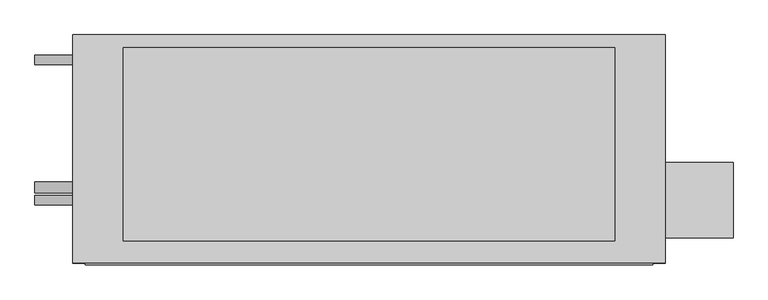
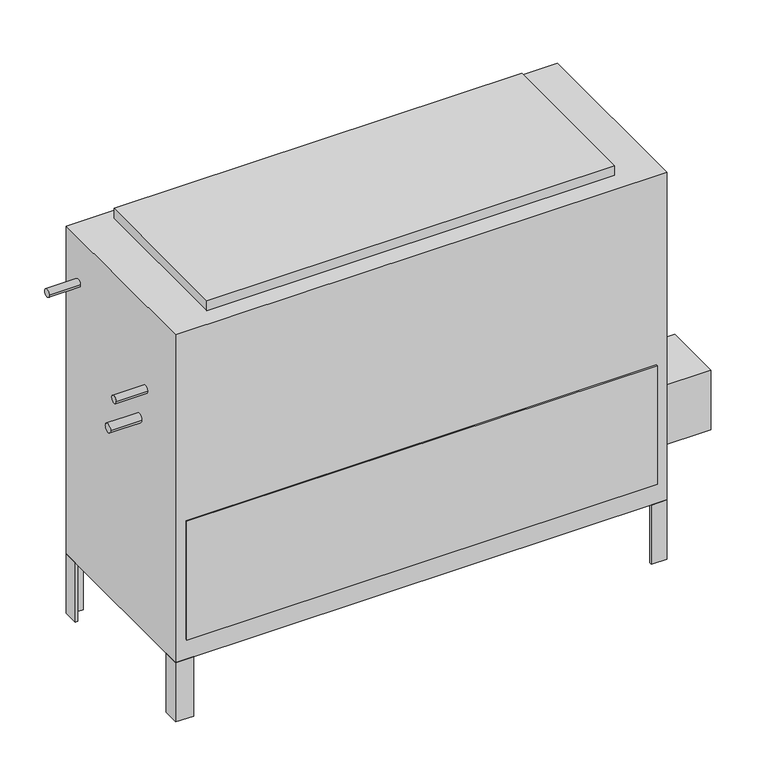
"""IFC4 building model written with IfcOpenShell, lengths in millimetres: proxy geometry, Concealed_High_Capacity_Vertical_Fan_Coil_Unit_-_42DDA_-_CARRIER_-_2-Pipe_Cool-EHeat_LH_2022 : Size 16 - 277v/60Hz/1Ph - 6 Row 12.0kW."""

from ifc_helpers import new_model, si_unit, point, frame, frame_2d, origin, origin_with_axes, place, context, project, spatial, polyline, circle_curve, trimmed, segment, composite_curve, outline, extrude, source, transform, mapped, element, save


def mechanical_equipment_e8f2433d(model_context):
    return source(origin(), model_context, "Body", "SweptSolid", [
        extrude(outline(polyline([(749.3, -417.5125), (749.3, -265.1125), (885.825, -265.1125), (885.825, -417.5125), (749.3, -417.5125)])), frame((0.0, 0.0, 101.6), z_axis=(0.0, 0.0, 1.0), x_axis=(1.0, 0.0, 0.0)), (0.0, 0.0, 1.0), 152.4),
        extrude(outline(polyline([(749.3, -46.0375), (742.95, -46.0375), (742.95, -14.2875), (711.2, -14.2875), (711.2, -7.9375), (749.3, -7.9375), (749.3, -46.0375)])), frame((0.0, 0.0, -152.4), z_axis=(0.0, 0.0, 1.0), x_axis=(1.0, 0.0, 0.0)), (0.0, 0.0, 1.0), 152.4),
        extrude(outline(polyline([(-406.4, -7.9375), (-406.4, -14.2875), (-438.15, -14.2875), (-438.15, -46.0375), (-444.5, -46.0375), (-444.5, -7.9375), (-406.4, -7.9375)])), frame((0.0, 0.0, -152.4), z_axis=(0.0, 0.0, 1.0), x_axis=(1.0, 0.0, 0.0)), (0.0, 0.0, 1.0), 152.4),
        extrude(outline(polyline([(711.2, -468.3125), (711.2, -461.9625), (742.95, -461.9625), (742.95, -430.2125), (749.3, -430.2125), (749.3, -468.3125), (711.2, -468.3125)])), frame((0.0, 0.0, -152.4), z_axis=(0.0, 0.0, 1.0), x_axis=(1.0, 0.0, 0.0)), (0.0, 0.0, 1.0), 152.4),
        extrude(outline(polyline([(-444.5, -428.1199163), (-438.15, -428.1199163), (-438.15, -461.9625), (-401.0318533, -461.9625), (-401.0318533, -468.3125), (-444.5, -468.3125), (-444.5, -428.1199163)])), frame((0.0, 0.0, -152.4), z_axis=(0.0, 0.0, 1.0), x_axis=(1.0, 0.0, 0.0)), (0.0, 0.0, 1.0), 152.4),
        extrude(outline(polyline([(647.7, -33.3375), (647.7, -423.8625), (-342.9, -423.8625), (-342.9, -33.3375), (647.7, -33.3375)])), frame((0.0, 0.0, 841.375), z_axis=(0.0, 0.0, 1.0), x_axis=(1.0, 0.0, 0.0)), (0.0, 0.0, 1.0), 25.4),
        extrude(outline(polyline([(723.9, -471.4875), (-419.1, -471.4875), (-419.1, -468.3125), (723.9, -468.3125), (723.9, -471.4875)])), frame((0.0, 0.0, 50.8), z_axis=(0.0, 0.0, 1.0), x_axis=(1.0, 0.0, 0.0)), (0.0, 0.0, 1.0), 304.8),
        extrude(outline(composite_curve([segment(trimmed(circle_curve(frame_2d((-58.7375, 727.075)), 9.525), [point((-68.2625, 727.075))], [point((-49.2125, 727.075))], False, "CARTESIAN"), True, "CONTINUOUS"), segment(trimmed(circle_curve(frame_2d((-58.7375, 727.075)), 9.525), [point((-49.2125, 727.075))], [point((-68.2625, 727.075))], False, "CARTESIAN"), True, "CONTINUOUS")], self_intersect=False)), frame((-520.7, 0.0, 0.0), z_axis=(1.0, 0.0, 0.0), x_axis=(0.0, 1.0, 0.0)), (0.0, 0.0, 1.0), 76.2),
        extrude(outline(composite_curve([segment(trimmed(circle_curve(frame_2d((-341.3125, 625.475)), 9.525), [point((-350.8375, 625.475))], [point((-331.7875, 625.475))], False, "CARTESIAN"), True, "CONTINUOUS"), segment(trimmed(circle_curve(frame_2d((-341.3125, 625.475)), 9.525), [point((-331.7875, 625.475))], [point((-350.8375, 625.475))], False, "CARTESIAN"), True, "CONTINUOUS")], self_intersect=False)), frame((-520.7, 0.0, 0.0), z_axis=(1.0, 0.0, 0.0), x_axis=(0.0, 1.0, 0.0)), (0.0, 0.0, 1.0), 76.2),
        extrude(outline(composite_curve([segment(trimmed(circle_curve(frame_2d((-315.9125, 536.575)), 11.1125), [point((-327.025, 536.575))], [point((-304.8, 536.575))], False, "CARTESIAN"), True, "CONTINUOUS"), segment(trimmed(circle_curve(frame_2d((-315.9125, 536.575)), 11.1125), [point((-304.8, 536.575))], [point((-327.025, 536.575))], False, "CARTESIAN"), True, "CONTINUOUS")], self_intersect=False)), frame((-520.7, 0.0, 0.0), z_axis=(1.0, 0.0, 0.0), x_axis=(0.0, 1.0, 0.0)), (0.0, 0.0, 1.0), 76.2),
        extrude(outline(polyline([(749.3, -7.9375), (749.3, -468.3125), (-444.5, -468.3125), (-444.5, -7.9375), (749.3, -7.9375)])), origin_with_axes(), (0.0, 0.0, 1.0), 841.375),
    ])


if __name__ == "__main__":
    model = new_model("IFC4")
    model_context = context("Model", 3, world=origin())
    ifc_project = project(units=[si_unit("LENGTHUNIT", "METRE", prefix="MILLI")], contexts=[model_context])
    site = spatial("IfcSite", under=ifc_project)
    building = spatial("IfcBuilding", under=site)
    placement = place(None, origin())
    mechanical_equipment_shape = mechanical_equipment_e8f2433d(model_context)
    element("IfcBuildingElementProxy", 1, Name="Concealed_High_Capacity_Vertical_Fan_Coil_Unit_-_42DDA_-_CARRIER_-_2-Pipe_Cool-EHeat_LH_2022 : Size 16 - 277v/60Hz/1Ph - 6 Row 12.0kW", ObjectType="Concealed_High_Capacity_Vertical_Fan_Coil_Unit_-_42DDA_-_CARRIER_-_2-Pipe_Cool-EHeat_LH_2022 : Size 16 - 277v/60Hz/1Ph - 6 Row 12.0kW", at=placement, inside=building, context=model_context, shape_type="MappedRepresentation", body=[
        mapped(mechanical_equipment_shape, transform((0.0, 0.0, 0.0), x_axis=(1.0, 0.0, 0.0), y_axis=(0.0, 1.0, 0.0), z_axis=(0.0, 0.0, 1.0))),
    ])
    save(model, "model.ifc")
